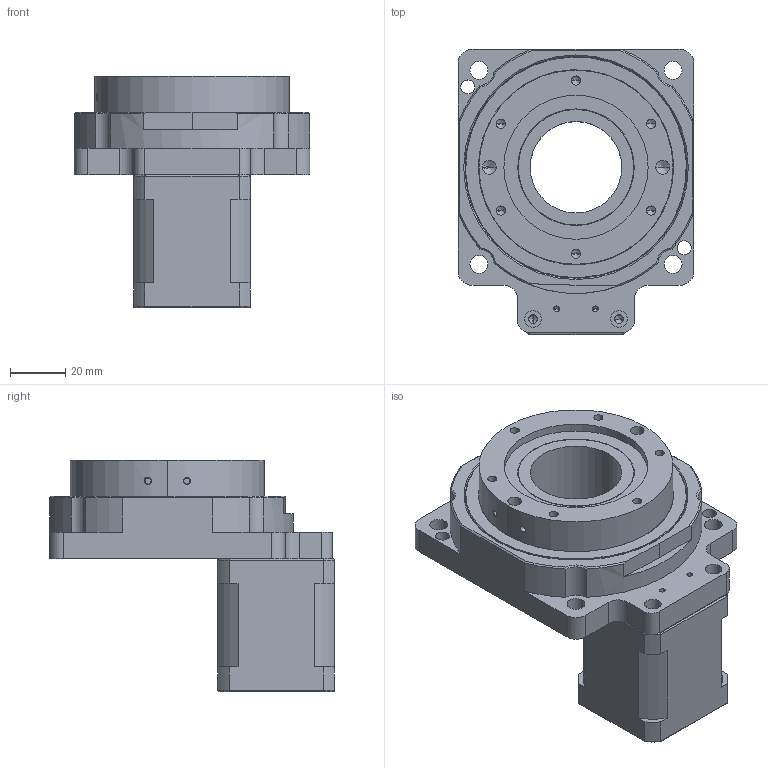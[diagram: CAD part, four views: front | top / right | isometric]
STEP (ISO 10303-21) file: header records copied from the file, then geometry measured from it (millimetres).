
FILE_DESCRIPTION (( 'STEP AP203' ), '1' );
FILE_NAME ('DG85.STEP', '2017-10-15T23:44:48', ( 'SkyUser' ), ( 'ITianKong.Com' ), 'SwSTEP 2.0', 'SolidWorks 2013', '' );
FILE_SCHEMA (( 'CONFIG_CONTROL_DESIGN' ));
Products named in the file (1): DG85
Bounding box: 85 x 102.7 x 83.5 mm (x, y, z)
Volume: 226219.6 mm3; surface area: 63794.4 mm2
Topology: 4 solids, 4 shells, 346 faces, 865 edges, 526 vertices
Faces by surface type: cylinder 182, cone 70, plane 62, bspline 32
Entity records: 61353 total; most frequent: CARTESIAN_POINT 53278, DIRECTION 1708, ORIENTED_EDGE 1642, EDGE_CURVE 821, AXIS2_PLACEMENT_3D 697, VERTEX_POINT 526, EDGE_LOOP 425, CIRCLE 382
